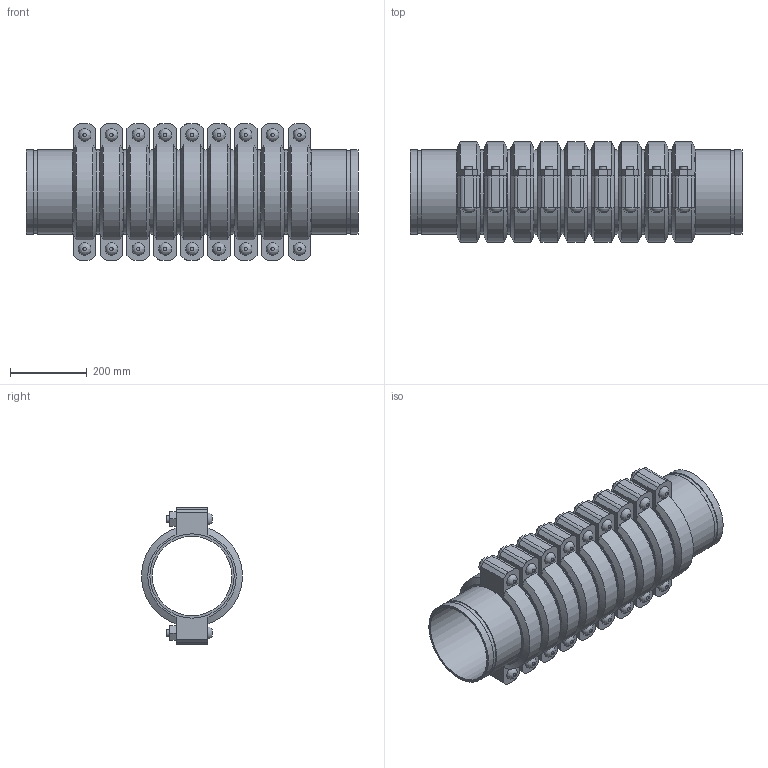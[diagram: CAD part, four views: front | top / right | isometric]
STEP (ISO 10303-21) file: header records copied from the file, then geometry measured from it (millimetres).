
FILE_DESCRIPTION(/* description */ ('VIC SS EXPANSION JOINT 9 COUPLINGS COMPRESSED STYLE 155P (OGS) (POTABLE WATER) ','CAx-IF Rec.Pracs.---Representation and Presentation of Product Manufacturing Information (PMI)---4.0---2014-10-13'),/* implementation_level */ '2;1');
FILE_NAME(/* name */ 'C:\Users\kkamble\AppData\Roaming\Autodesk\ApplicationPlugins\Victaulic.Temp\A693\Victaulic_SS_Expansion Joint_Compressed_9 Couplings_Style 155P (OGS)-Potable Water_9 Coup_Comp_8 (200).stp',/* time_stamp */ '2021-07-16T17:18:48+06:00',/* author */ ('kkamble'),/* organization */ ('Victaulic'),/* preprocessor_version */ 'ST-DEVELOPER v17.2',/* originating_system */ 'Autodesk Inventor 2019',/* authorisation */ '');
FILE_SCHEMA (('AP242_MANAGED_MODEL_BASED_3D_ENGINEERING_MIM_LF { 1 0 10303 442 1 1 4 }'));
Length unit declared in the file: inch
Products named in the file (4): 155P-08.0; Nipple-08.0; Nipple-08.0_1; 075-08.0
Assembly tree (19 placements, depth 2):
  155P-08.0
    Nipple-08.0  x2
    Nipple-08.0_1  x8
    075-08.0  x9
Bounding box: 863.6 x 261.72 x 354.84 mm (x, y, z)
Volume: 15575773.1 mm3; surface area: 2801504.3 mm2
Topology: 19 solids, 37 shells, 597 faces, 1443 edges, 1014 vertices
Faces by surface type: plane 366, cylinder 177, cone 36, bspline 18
Full cylindrical faces by diameter (mm): 19.05 x36, 21.209 x18, 206.985 x10, 214.401 x20, 219.075 x39
Entity records: 2753 total; most frequent: CARTESIAN_POINT 489, DIRECTION 463, ORIENTED_EDGE 374, EDGE_CURVE 187, AXIS2_PLACEMENT_3D 186, VERTEX_POINT 134, EDGE_LOOP 101, LINE 91
